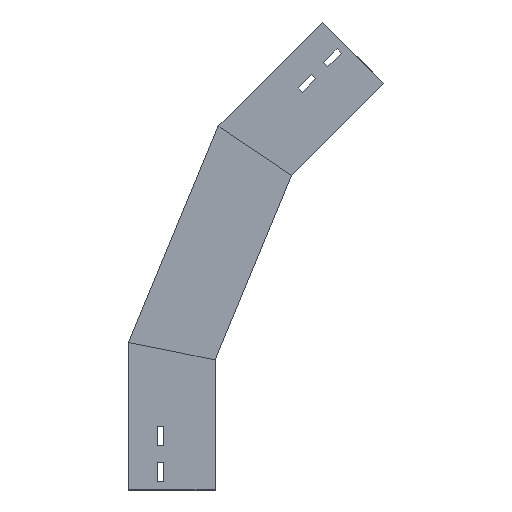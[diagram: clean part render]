
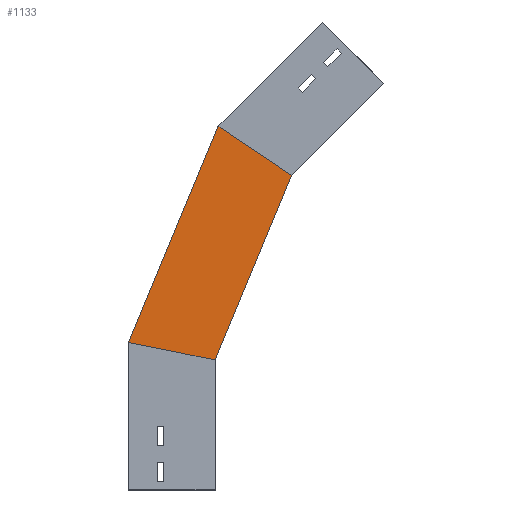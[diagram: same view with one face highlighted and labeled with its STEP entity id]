
A CAD part, left-side view. The second image highlights one B-rep face of the part: STEP entity #1133.
In plain terms, the highlighted planar face has unit normal (-1, 0, 0) as drawn and (1, 0, 0) by its records, which use the part's own axes.
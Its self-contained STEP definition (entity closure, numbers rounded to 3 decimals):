
#15 = CARTESIAN_POINT ( 'NONE',  ( 0., -28.701, 144.291 ) ) ;
#90 = VERTEX_POINT ( 'NONE', #937 ) ;
#123 = CARTESIAN_POINT ( 'NONE',  ( 0., 8.412, 129.693 ) ) ;
#127 = CARTESIAN_POINT ( 'NONE',  ( 0., 8.412, 129.693 ) ) ;
#203 = FACE_OUTER_BOUND ( 'NONE', #1274, .T. ) ;
#310 = VERTEX_POINT ( 'NONE', #343 ) ;
#343 = CARTESIAN_POINT ( 'NONE',  ( 0., -88.017, 362.492 ) ) ;
#462 = CARTESIAN_POINT ( 'NONE',  ( 0., 100., 169.891 ) ) ;
#540 = CARTESIAN_POINT ( 'NONE',  ( 0., 100.799, 167.961 ) ) ;
#606 = EDGE_CURVE ( 'NONE', #1442, #90, #1231, .T. ) ;
#608 = DIRECTION ( 'NONE',  ( 0., -0.981, -0.195 ) ) ;
#680 = PLANE ( 'NONE',  #1071 ) ;
#713 = VERTEX_POINT ( 'NONE', #1399 ) ;
#718 = VECTOR ( 'NONE', #1217, 1000. ) ;
#741 = EDGE_CURVE ( 'NONE', #1442, #713, #1291, .T. ) ;
#843 = VECTOR ( 'NONE', #1400, 1000. ) ;
#862 = LINE ( 'NONE', #1333, #1289 ) ;
#872 = DIRECTION ( 'NONE',  ( 0., -0.831, -0.556 ) ) ;
#882 = ORIENTED_EDGE ( 'NONE', *, *, #606, .T. ) ;
#937 = CARTESIAN_POINT ( 'NONE',  ( 0., -3.241, 419.138 ) ) ;
#1035 = LINE ( 'NONE', #127, #843 ) ;
#1052 = DIRECTION ( 'NONE',  ( 0., 0., -1. ) ) ;
#1053 = ORIENTED_EDGE ( 'NONE', *, *, #1347, .F. ) ;
#1071 = AXIS2_PLACEMENT_3D ( 'NONE', #123, #1167, #1052 ) ;
#1109 = ORIENTED_EDGE ( 'NONE', *, *, #1266, .T. ) ;
#1133 = ADVANCED_FACE ( 'NONE', ( #203 ), #680, .T. ) ;
#1167 = DIRECTION ( 'NONE',  ( 1., 0., 0. ) ) ;
#1217 = DIRECTION ( 'NONE',  ( 0., -0.383, 0.924 ) ) ;
#1231 = LINE ( 'NONE', #540, #718 ) ;
#1266 = EDGE_CURVE ( 'NONE', #90, #310, #862, .T. ) ;
#1274 = EDGE_LOOP ( 'NONE', ( #882, #1109, #1053, #1481 ) ) ;
#1289 = VECTOR ( 'NONE', #872, 1000. ) ;
#1291 = LINE ( 'NONE', #15, #1467 ) ;
#1333 = CARTESIAN_POINT ( 'NONE',  ( 0., -128.891, 335.181 ) ) ;
#1347 = EDGE_CURVE ( 'NONE', #713, #310, #1035, .T. ) ;
#1399 = CARTESIAN_POINT ( 'NONE',  ( 0., 0., 150. ) ) ;
#1400 = DIRECTION ( 'NONE',  ( 0., -0.383, 0.924 ) ) ;
#1442 = VERTEX_POINT ( 'NONE', #462 ) ;
#1467 = VECTOR ( 'NONE', #608, 1000. ) ;
#1481 = ORIENTED_EDGE ( 'NONE', *, *, #741, .F. ) ;
